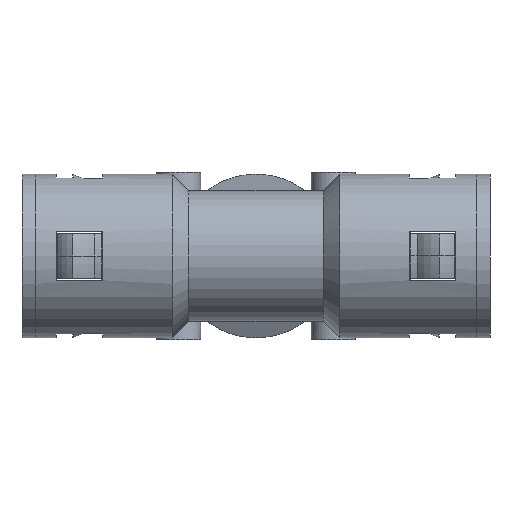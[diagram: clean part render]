
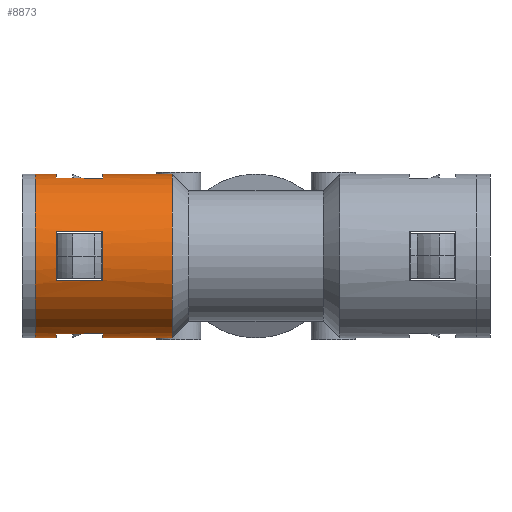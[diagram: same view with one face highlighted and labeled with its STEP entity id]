
A CAD part, front view. The second image highlights one B-rep face of the part: STEP entity #8873.
In plain terms, the highlighted cylindrical face has radius 18.5 mm (diameter 37 mm), a partial arc.
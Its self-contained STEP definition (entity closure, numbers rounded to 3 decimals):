
#338 = EDGE_LOOP ( 'NONE', ( #1420, #1421, #1422, #1423, #1424, #1425, #1426, #1427, #1428, #1429, #1430, #1431 ) ) ;
#366 = EDGE_LOOP ( 'NONE', ( #1432, #1433, #1434, #1435 ) ) ;
#1063 = AXIS2_PLACEMENT_3D ( 'NONE', #3559, #3558, #3560 ) ;
#1245 = AXIS2_PLACEMENT_3D ( 'NONE', #5494, #5497, #5498 ) ;
#1268 = AXIS2_PLACEMENT_3D ( 'NONE', #5747, #5756, #5757 ) ;
#1269 = AXIS2_PLACEMENT_3D ( 'NONE', #5740, #5753, #5754 ) ;
#1270 = AXIS2_PLACEMENT_3D ( 'NONE', #5755, #5764, #5765 ) ;
#1271 = AXIS2_PLACEMENT_3D ( 'NONE', #5752, #5761, #5762 ) ;
#1273 = AXIS2_PLACEMENT_3D ( 'NONE', #5760, #5769, #5770 ) ;
#1274 = AXIS2_PLACEMENT_3D ( 'NONE', #5763, #5774, #5775 ) ;
#1420 = ORIENTED_EDGE ( 'NONE', *, *, #8693, .F. ) ;
#1421 = ORIENTED_EDGE ( 'NONE', *, *, #8691, .T. ) ;
#1422 = ORIENTED_EDGE ( 'NONE', *, *, #8705, .T. ) ;
#1423 = ORIENTED_EDGE ( 'NONE', *, *, #8753, .T. ) ;
#1424 = ORIENTED_EDGE ( 'NONE', *, *, #8752, .F. ) ;
#1425 = ORIENTED_EDGE ( 'NONE', *, *, #8750, .F. ) ;
#1426 = ORIENTED_EDGE ( 'NONE', *, *, #8701, .T. ) ;
#1427 = ORIENTED_EDGE ( 'NONE', *, *, #8754, .F. ) ;
#1428 = ORIENTED_EDGE ( 'NONE', *, *, #8699, .F. ) ;
#1429 = ORIENTED_EDGE ( 'NONE', *, *, #8751, .F. ) ;
#1430 = ORIENTED_EDGE ( 'NONE', *, *, #8757, .F. ) ;
#1431 = ORIENTED_EDGE ( 'NONE', *, *, #8756, .T. ) ;
#1432 = ORIENTED_EDGE ( 'NONE', *, *, #8758, .F. ) ;
#1433 = ORIENTED_EDGE ( 'NONE', *, *, #8755, .T. ) ;
#1434 = ORIENTED_EDGE ( 'NONE', *, *, #8299, .T. ) ;
#1435 = ORIENTED_EDGE ( 'NONE', *, *, #8759, .F. ) ;
#2371 = CIRCLE ( 'NONE', #1063, 18.5 ) ;
#3196 = CARTESIAN_POINT ( 'NONE',  ( -34.75, 0., 18.5 ) ) ;
#3209 = CARTESIAN_POINT ( 'NONE',  ( -34.75, 0., -18.5 ) ) ;
#3213 = CARTESIAN_POINT ( 'NONE',  ( -45.25, 0., 18.5 ) ) ;
#3228 = CARTESIAN_POINT ( 'NONE',  ( -45.25, -17.664, -5.5 ) ) ;
#3245 = CARTESIAN_POINT ( 'NONE',  ( -45.25, -17.664, 5.5 ) ) ;
#3257 = CARTESIAN_POINT ( 'NONE',  ( -34.75, -5.5, -17.664 ) ) ;
#3266 = CARTESIAN_POINT ( 'NONE',  ( -50., 0., 18.5 ) ) ;
#3277 = CARTESIAN_POINT ( 'NONE',  ( -34.75, -17.664, -5.5 ) ) ;
#3299 = CARTESIAN_POINT ( 'NONE',  ( -45.25, -5.5, -17.664 ) ) ;
#3324 = CARTESIAN_POINT ( 'NONE',  ( -19., 0., -18.5 ) ) ;
#3343 = CARTESIAN_POINT ( 'NONE',  ( -34.75, -17.664, 5.5 ) ) ;
#3380 = CARTESIAN_POINT ( 'NONE',  ( -34.75, -5.5, 17.664 ) ) ;
#3390 = CARTESIAN_POINT ( 'NONE',  ( -19., 0., 18.5 ) ) ;
#3393 = CARTESIAN_POINT ( 'NONE',  ( -45.25, -5.5, 17.664 ) ) ;
#3400 = CARTESIAN_POINT ( 'NONE',  ( -50., 0., -18.5 ) ) ;
#3414 = CARTESIAN_POINT ( 'NONE',  ( -45.25, 0., -18.5 ) ) ;
#3558 = DIRECTION ( 'NONE',  ( 1., 0., 0. ) ) ;
#3559 = CARTESIAN_POINT ( 'NONE',  ( -34.75, 0., 0. ) ) ;
#3560 = DIRECTION ( 'NONE',  ( 0., 0., 1. ) ) ;
#4227 = CIRCLE ( 'NONE', #1245, 18.5 ) ;
#4228 = LINE ( 'NONE', #5501, #4229 ) ;
#4229 = VECTOR ( 'NONE', #5502, 1000. ) ;
#4232 = LINE ( 'NONE', #5516, #4236 ) ;
#4235 = VECTOR ( 'NONE', #5522, 1000. ) ;
#4236 = VECTOR ( 'NONE', #5517, 1000. ) ;
#4238 = LINE ( 'NONE', #5530, #4244 ) ;
#4241 = LINE ( 'NONE', #5513, #4235 ) ;
#4244 = VECTOR ( 'NONE', #5531, 1000. ) ;
#4294 = LINE ( 'NONE', #5758, #4297 ) ;
#4295 = LINE ( 'NONE', #5766, #4302 ) ;
#4297 = VECTOR ( 'NONE', #5759, 1000. ) ;
#4298 = CIRCLE ( 'NONE', #1269, 18.5 ) ;
#4299 = LINE ( 'NONE', #5777, #4307 ) ;
#4300 = CIRCLE ( 'NONE', #1268, 18.5 ) ;
#4301 = LINE ( 'NONE', #5771, #4304 ) ;
#4302 = VECTOR ( 'NONE', #5767, 1000. ) ;
#4303 = CIRCLE ( 'NONE', #1271, 18.5 ) ;
#4304 = VECTOR ( 'NONE', #5772, 1000. ) ;
#4305 = CIRCLE ( 'NONE', #1270, 18.5 ) ;
#4307 = VECTOR ( 'NONE', #5778, 1000. ) ;
#4308 = CIRCLE ( 'NONE', #1273, 18.5 ) ;
#4311 = CIRCLE ( 'NONE', #1274, 18.5 ) ;
#5494 = CARTESIAN_POINT ( 'NONE',  ( -19., 0., 0. ) ) ;
#5497 = DIRECTION ( 'NONE',  ( -1., 0., 0. ) ) ;
#5498 = DIRECTION ( 'NONE',  ( 0., 0., 1. ) ) ;
#5501 = CARTESIAN_POINT ( 'NONE',  ( -50., 0., -18.5 ) ) ;
#5502 = DIRECTION ( 'NONE',  ( -1., 0., 0. ) ) ;
#5513 = CARTESIAN_POINT ( 'NONE',  ( -50., 0., 18.5 ) ) ;
#5516 = CARTESIAN_POINT ( 'NONE',  ( -50., 0., -18.5 ) ) ;
#5517 = DIRECTION ( 'NONE',  ( -1., 0., 0. ) ) ;
#5522 = DIRECTION ( 'NONE',  ( -1., 0., 0. ) ) ;
#5530 = CARTESIAN_POINT ( 'NONE',  ( -50., 0., 18.5 ) ) ;
#5531 = DIRECTION ( 'NONE',  ( -1., 0., 0. ) ) ;
#5740 = CARTESIAN_POINT ( 'NONE',  ( -45.25, 0., 0. ) ) ;
#5747 = CARTESIAN_POINT ( 'NONE',  ( -45.25, 0., 0. ) ) ;
#5752 = CARTESIAN_POINT ( 'NONE',  ( -34.75, 0., 0. ) ) ;
#5753 = DIRECTION ( 'NONE',  ( 1., 0., 0. ) ) ;
#5754 = DIRECTION ( 'NONE',  ( 0., 0., 1. ) ) ;
#5755 = CARTESIAN_POINT ( 'NONE',  ( -50., 0., 0. ) ) ;
#5756 = DIRECTION ( 'NONE',  ( 1., 0., 0. ) ) ;
#5757 = DIRECTION ( 'NONE',  ( 0., 0., 1. ) ) ;
#5758 = CARTESIAN_POINT ( 'NONE',  ( -50., -5.5, 17.664 ) ) ;
#5759 = DIRECTION ( 'NONE',  ( 1., 0., 0. ) ) ;
#5760 = CARTESIAN_POINT ( 'NONE',  ( -34.75, 0., 0. ) ) ;
#5761 = DIRECTION ( 'NONE',  ( 1., 0., 0. ) ) ;
#5762 = DIRECTION ( 'NONE',  ( 0., 0., 1. ) ) ;
#5763 = CARTESIAN_POINT ( 'NONE',  ( -45.25, 0., 0. ) ) ;
#5764 = DIRECTION ( 'NONE',  ( -1., 0., 0. ) ) ;
#5765 = DIRECTION ( 'NONE',  ( 0., 0., 1. ) ) ;
#5766 = CARTESIAN_POINT ( 'NONE',  ( -50., -17.664, 5.5 ) ) ;
#5767 = DIRECTION ( 'NONE',  ( 1., 0., 0. ) ) ;
#5769 = DIRECTION ( 'NONE',  ( 1., 0., 0. ) ) ;
#5770 = DIRECTION ( 'NONE',  ( 0., 0., 1. ) ) ;
#5771 = CARTESIAN_POINT ( 'NONE',  ( -50., -5.5, -17.664 ) ) ;
#5772 = DIRECTION ( 'NONE',  ( -1., 0., 0. ) ) ;
#5774 = DIRECTION ( 'NONE',  ( 1., 0., 0. ) ) ;
#5775 = DIRECTION ( 'NONE',  ( 0., 0., 1. ) ) ;
#5777 = CARTESIAN_POINT ( 'NONE',  ( -50., -17.664, -5.5 ) ) ;
#5778 = DIRECTION ( 'NONE',  ( 1., 0., 0. ) ) ;
#6162 = DIRECTION ( 'NONE',  ( 0., 0., 1. ) ) ;
#6163 = DIRECTION ( 'NONE',  ( -1., 0., 0. ) ) ;
#6164 = CARTESIAN_POINT ( 'NONE',  ( -50., 0., 0. ) ) ;
#6797 = AXIS2_PLACEMENT_3D ( 'NONE', #6164, #6163, #6162 ) ;
#7167 = FACE_OUTER_BOUND ( 'NONE', #338, .T. ) ;
#7172 = CYLINDRICAL_SURFACE ( 'NONE', #6797, 18.5 ) ;
#7174 = FACE_BOUND ( 'NONE', #366, .T. ) ;
#7861 = VERTEX_POINT ( 'NONE', #3196 ) ;
#7876 = VERTEX_POINT ( 'NONE', #3209 ) ;
#7883 = VERTEX_POINT ( 'NONE', #3213 ) ;
#7900 = VERTEX_POINT ( 'NONE', #3228 ) ;
#7922 = VERTEX_POINT ( 'NONE', #3245 ) ;
#7936 = VERTEX_POINT ( 'NONE', #3257 ) ;
#7948 = VERTEX_POINT ( 'NONE', #3266 ) ;
#7961 = VERTEX_POINT ( 'NONE', #3277 ) ;
#7984 = VERTEX_POINT ( 'NONE', #3299 ) ;
#8013 = VERTEX_POINT ( 'NONE', #3324 ) ;
#8036 = VERTEX_POINT ( 'NONE', #3343 ) ;
#8081 = VERTEX_POINT ( 'NONE', #3380 ) ;
#8091 = VERTEX_POINT ( 'NONE', #3390 ) ;
#8095 = VERTEX_POINT ( 'NONE', #3393 ) ;
#8104 = VERTEX_POINT ( 'NONE', #3400 ) ;
#8119 = VERTEX_POINT ( 'NONE', #3414 ) ;
#8299 = EDGE_CURVE ( 'NONE', #8036, #7961, #2371, .T. ) ;
#8691 = EDGE_CURVE ( 'NONE', #8013, #8091, #4227, .T. ) ;
#8693 = EDGE_CURVE ( 'NONE', #8013, #7876, #4228, .T. ) ;
#8699 = EDGE_CURVE ( 'NONE', #8119, #8104, #4232, .T. ) ;
#8701 = EDGE_CURVE ( 'NONE', #7883, #7948, #4241, .T. ) ;
#8705 = EDGE_CURVE ( 'NONE', #8091, #7861, #4238, .T. ) ;
#8750 = EDGE_CURVE ( 'NONE', #7883, #8095, #4298, .T. ) ;
#8751 = EDGE_CURVE ( 'NONE', #7984, #8119, #4300, .T. ) ;
#8752 = EDGE_CURVE ( 'NONE', #8095, #8081, #4294, .T. ) ;
#8753 = EDGE_CURVE ( 'NONE', #7861, #8081, #4303, .T. ) ;
#8754 = EDGE_CURVE ( 'NONE', #8104, #7948, #4305, .T. ) ;
#8755 = EDGE_CURVE ( 'NONE', #7922, #8036, #4295, .T. ) ;
#8756 = EDGE_CURVE ( 'NONE', #7936, #7876, #4308, .T. ) ;
#8757 = EDGE_CURVE ( 'NONE', #7936, #7984, #4301, .T. ) ;
#8758 = EDGE_CURVE ( 'NONE', #7922, #7900, #4311, .T. ) ;
#8759 = EDGE_CURVE ( 'NONE', #7900, #7961, #4299, .T. ) ;
#8873 = ADVANCED_FACE ( 'NONE', ( #7167, #7174 ), #7172, .T. ) ;
